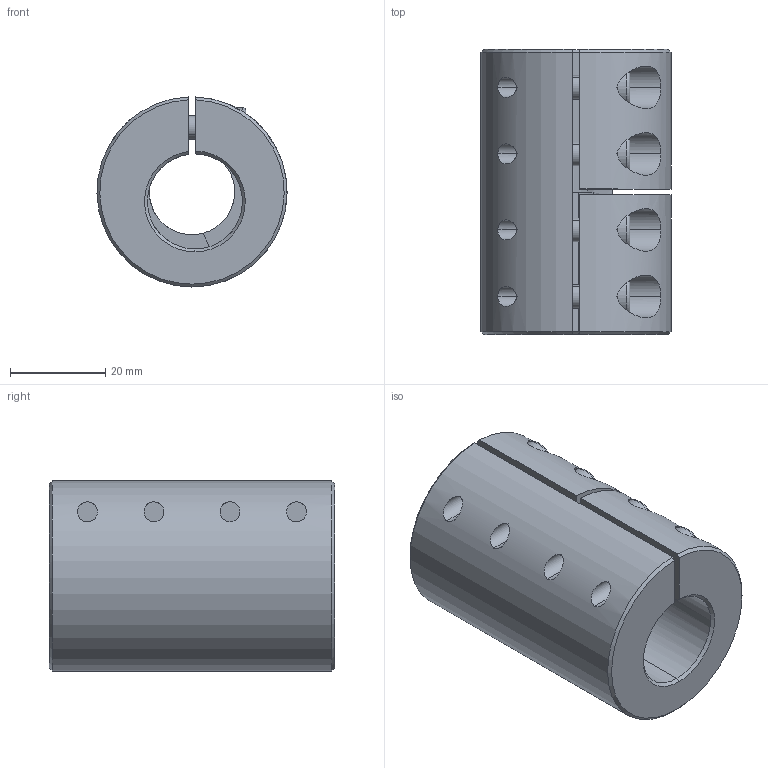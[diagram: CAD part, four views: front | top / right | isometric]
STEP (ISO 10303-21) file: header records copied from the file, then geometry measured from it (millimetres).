
FILE_DESCRIPTION (( 'STEP AP214' ), '1' );
FILE_NAME ('LL-B-D40L60-18-20½¨Ä£.STEP', '2022-07-22T01:04:37', ( '' ), ( '' ), 'SwSTEP 2.0', 'SolidWorks 2022', '' );
FILE_SCHEMA (( 'AUTOMOTIVE_DESIGN' ));
Length unit declared in the file: millimetre
Products named in the file (1): LL-B-D40L60-18-20膘耀
Bounding box: 40 x 60 x 39.99 mm (x, y, z)
Volume: 55312.9 mm3; surface area: 17567.8 mm2
Topology: 1 solids, 1 shells, 177 faces, 446 edges, 279 vertices
Faces by surface type: plane 85, cylinder 70, cone 14, torus 8
Entity records: 5827 total; most frequent: CARTESIAN_POINT 1479, DIRECTION 947, ORIENTED_EDGE 876, EDGE_CURVE 438, AXIS2_PLACEMENT_3D 371, VERTEX_POINT 279, EDGE_LOOP 209, VECTOR 205
